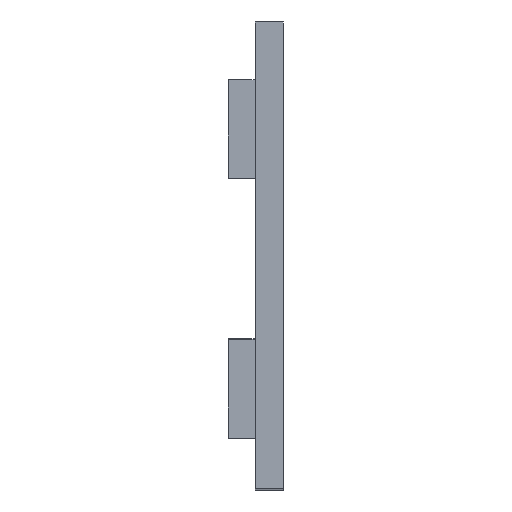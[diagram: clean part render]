
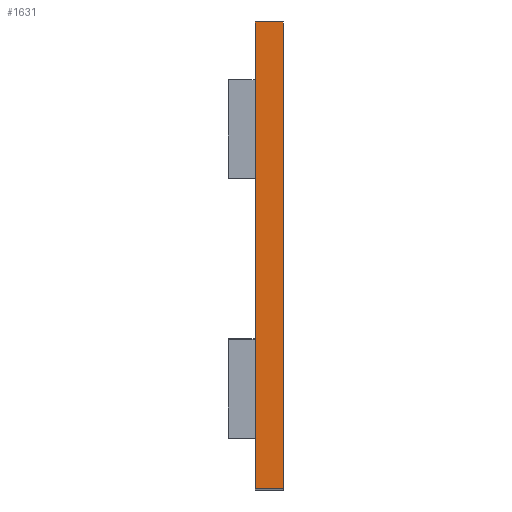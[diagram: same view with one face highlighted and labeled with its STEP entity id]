
A CAD part, top view. The second image highlights one B-rep face of the part: STEP entity #1631.
In plain terms, the highlighted planar face has unit normal (0, 0, 1).
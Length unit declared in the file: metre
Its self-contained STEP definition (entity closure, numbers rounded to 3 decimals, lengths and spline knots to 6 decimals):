
#212=ORIENTED_EDGE('',*,*,#577,.T.);
#213=ORIENTED_EDGE('',*,*,#642,.T.);
#214=ORIENTED_EDGE('',*,*,#632,.F.);
#215=ORIENTED_EDGE('',*,*,#639,.F.);
#577=EDGE_CURVE('',#795,#794,#941,.T.);
#632=EDGE_CURVE('',#846,#847,#980,.T.);
#639=EDGE_CURVE('',#795,#846,#987,.T.);
#642=EDGE_CURVE('',#794,#847,#990,.T.);
#794=VERTEX_POINT('',#2407);
#795=VERTEX_POINT('',#2409);
#846=VERTEX_POINT('',#2515);
#847=VERTEX_POINT('',#2517);
#941=LINE('',#2408,#1121);
#980=LINE('',#2516,#1160);
#987=LINE('',#2529,#1167);
#990=LINE('',#2534,#1170);
#1121=VECTOR('',#1936,1.);
#1160=VECTOR('',#2009,1.);
#1167=VECTOR('',#2018,1.);
#1170=VECTOR('',#2025,1.);
#1301=EDGE_LOOP('',(#212,#213,#214,#215));
#1455=FACE_BOUND('',#1301,.T.);
#1567=PLANE('',#1760);
#1631=ADVANCED_FACE('',(#1455),#1567,.T.);
#1760=AXIS2_PLACEMENT_3D('',#2533,#2023,#2024);
#1936=DIRECTION('',(0.,-1.,0.));
#2009=DIRECTION('',(0.,-1.,0.));
#2018=DIRECTION('',(1.,0.,0.));
#2023=DIRECTION('',(0.,0.,1.));
#2024=DIRECTION('',(1.,0.,0.));
#2025=DIRECTION('',(1.,0.,0.));
#2407=CARTESIAN_POINT('',(-0.06358,-0.239173,0.153271));
#2408=CARTESIAN_POINT('',(-0.06358,-0.222439,0.153271));
#2409=CARTESIAN_POINT('',(-0.06358,-0.176992,0.153271));
#2515=CARTESIAN_POINT('',(-0.059793,-0.176992,0.153271));
#2516=CARTESIAN_POINT('',(-0.059793,-0.222439,0.153271));
#2517=CARTESIAN_POINT('',(-0.059793,-0.239173,0.153271));
#2529=CARTESIAN_POINT('',(-0.061687,-0.176992,0.153271));
#2533=CARTESIAN_POINT('',(-0.061687,-0.222439,0.153271));
#2534=CARTESIAN_POINT('',(-0.061687,-0.239173,0.153271));
